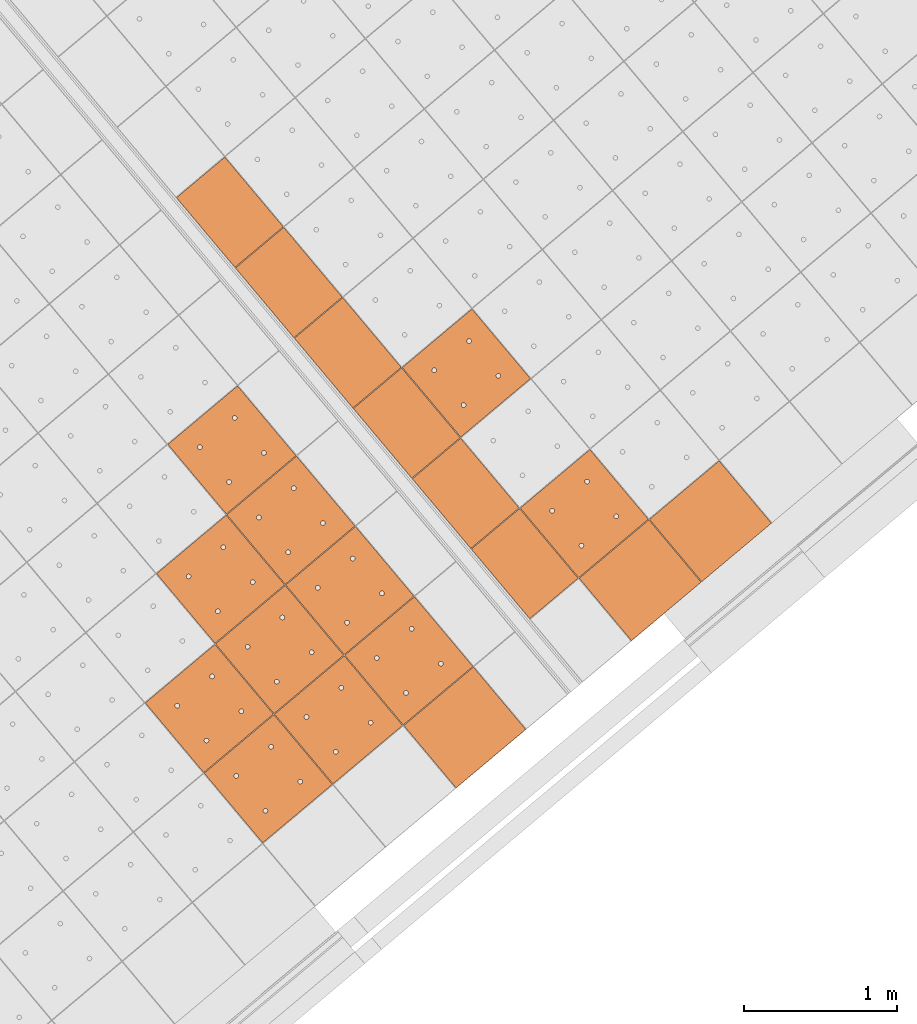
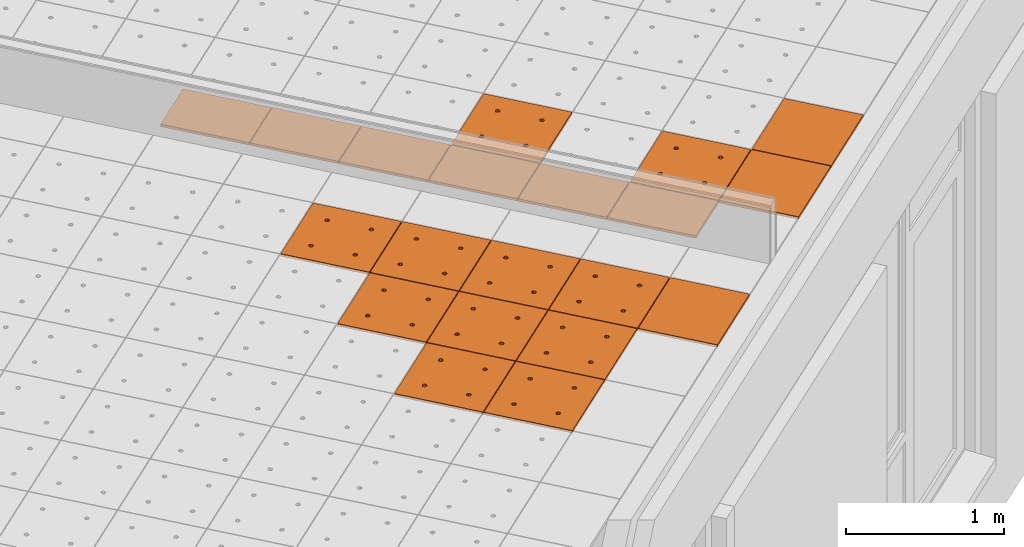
# One storey, part 180 of 338: 20 proxies, 2 elements without a shape of their own.
"""IFC2X3 building model written with IfcOpenShell, lengths in millimetres."""

from ifc_helpers import new_model, entity, si_unit, converted_unit, derived_unit, money_unit, direction, frame, origin_with_axes, place, context, subcontext, project, spatial, faceted_brep, source, transform, mapped, material, type_object, type_shapes, element, aggregate, save


model = new_model("IFC2X3")

# Units and contexts
model_context = context("Model", 3, precision=0.01, world=origin_with_axes(), true_north=direction((0.0, 1.0)))
plan_context = context("Plan", 3, precision=0.01, world=origin_with_axes(), true_north=direction((0.0, 1.0)))
body_context = subcontext(model_context, "Body", "Model", "MODEL_VIEW")
ifc_project = project(units=[si_unit("LENGTHUNIT", "METRE", prefix="MILLI"), si_unit("AREAUNIT", "SQUARE_METRE"), si_unit("VOLUMEUNIT", "CUBIC_METRE"), converted_unit("PLANEANGLEUNIT", "DEGREE", entity("IfcPlaneAngleMeasure", 0.0174532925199), si_unit("PLANEANGLEUNIT", "RADIAN"), dimensions=[0, 0, 0, 0, 0, 0, 0]), money_unit("EUR"), converted_unit("TIMEUNIT", "Year", entity("IfcTimeMeasure", 31556926.0), si_unit("TIMEUNIT", "SECOND"), dimensions=[0, 0, 1, 0, 0, 0, 0]), si_unit("MASSUNIT", "GRAM", prefix="KILO"), si_unit("THERMODYNAMICTEMPERATUREUNIT", "DEGREE_CELSIUS"), si_unit("LUMINOUSINTENSITYUNIT", "LUMEN"), si_unit("ENERGYUNIT", "JOULE", prefix="MEGA"), derived_unit("THERMALCONDUCTANCEUNIT", [(si_unit("POWERUNIT", "WATT"), 1), (si_unit("LENGTHUNIT", "METRE"), -1), (si_unit("THERMODYNAMICTEMPERATUREUNIT", "KELVIN"), -1)]), derived_unit("SPECIFICHEATCAPACITYUNIT", [(si_unit("ENERGYUNIT", "JOULE"), 1), (si_unit("MASSUNIT", "GRAM", prefix="KILO"), -1), (si_unit("THERMODYNAMICTEMPERATUREUNIT", "KELVIN"), -1)]), derived_unit("MASSDENSITYUNIT", [(si_unit("MASSUNIT", "GRAM", prefix="KILO"), 1), (si_unit("VOLUMEUNIT", "CUBIC_METRE"), -1)])], contexts=[model_context, plan_context])

# Site, building, storey
site_placement = place(None, origin_with_axes())
site = spatial("IfcSite", under=ifc_project, at=site_placement, Name="Fortuinstraat Woensdrecht", CompositionType="ELEMENT")
building_placement = place(site_placement, origin_with_axes())
building = spatial("IfcBuilding", under=site, at=building_placement, Name="IKC Fortuna", CompositionType="ELEMENT")
storey_placement = place(building_placement, origin_with_axes())
storey = spatial("IfcBuildingStorey", under=building, at=storey_placement, Name="00 begane grond", CompositionType="ELEMENT", Elevation=0.0)

# Covering, proxies
covering_type = type_object("IfcCoveringType", Name="Curtain Wall Type", PredefinedType="CEILING")
covering_1_placement = place(storey_placement, frame((15150.6418133, -6622.13986243, 4660.0), z_axis=(0.0, 0.0, 1.0), x_axis=(1.0, 0.0, 0.0)))
covering_1 = element("IfcCovering", 1, at=covering_1_placement, inside=storey, type_object=covering_type, Name="45_Plafondafwerking_P01", PredefinedType="CEILING")
ifc_material = material(Name="Gipsplaat")
building_element_proxy_type_1 = type_object("IfcBuildingElementProxyType", Name="Main Panel 600 x 600 x 20", PredefinedType="NOTDEFINED")
shared_shape_1 = source(origin_with_axes(), body_context, "Body", "Brep", [
    faceted_brep([(2.49999999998, 2.49999999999, -10.0), (300.0, 2.49999999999, -10.0), (300.0, 2.49999999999, 10.0), (2.49999999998, 2.49999999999, 10.0), (2.49999999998, 300.0, -10.0), (2.49999999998, 597.5, -10.0), (300.0, 597.5, -10.0), (597.5, 597.5, -10.0), (597.5, 300.0, -10.0), (597.5, 2.49999999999, -10.0), (166.25, 450.06232995, -10.0), (165.79423259, 452.64711538, -10.0), (164.896546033, 455.11348892, -10.0), (163.58421608, 457.38651108, -10.0), (161.897117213, 459.39711721, -10.0), (159.886511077, 461.08421608, -10.0), (157.613488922, 462.39654603, -10.0), (155.147115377, 463.29423259, -10.0), (152.562329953, 463.75, -10.0), (149.937670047, 463.75, -10.0), (147.352884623, 463.29423259, -10.0), (144.886511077, 462.39654603, -10.0), (142.613488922, 461.08421608, -10.0), (140.602882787, 459.39711721, -10.0), (138.91578392, 457.38651108, -10.0), (137.603453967, 455.11348892, -10.0), (136.705767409, 452.64711538, -10.0), (136.25, 450.06232995, -10.0), (136.25, 448.75, -10.0), (136.25, 447.43767005, -10.0), (136.705767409, 444.85288462, -10.0), (137.603453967, 442.38651108, -10.0), (138.91578392, 440.11348892, -10.0), (140.602882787, 438.10288279, -10.0), (142.613488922, 436.41578392, -10.0), (144.886511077, 435.10345397, -10.0), (147.352884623, 434.20576741, -10.0), (149.937670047, 433.75, -10.0), (152.562329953, 433.75, -10.0), (155.147115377, 434.20576741, -10.0), (157.613488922, 435.10345397, -10.0), (159.886511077, 436.41578392, -10.0), (161.897117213, 438.10288279, -10.0), (163.58421608, 440.11348892, -10.0), (164.896546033, 442.38651108, -10.0), (165.79423259, 444.85288462, -10.0), (166.25, 447.43767005, -10.0), (463.75, 450.06232995, -10.0), (463.29423259, 452.64711538, -10.0), (462.396546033, 455.11348892, -10.0), (461.08421608, 457.38651108, -10.0), (459.397117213, 459.39711721, -10.0), (457.386511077, 461.08421608, -10.0), (455.113488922, 462.39654603, -10.0), (452.647115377, 463.29423259, -10.0), (450.062329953, 463.75, -10.0), (447.437670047, 463.75, -10.0), (444.852884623, 463.29423259, -10.0), (442.386511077, 462.39654603, -10.0), (440.113488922, 461.08421608, -10.0), (438.102882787, 459.39711721, -10.0), (436.41578392, 457.38651108, -10.0), (435.103453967, 455.11348892, -10.0), (434.205767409, 452.64711538, -10.0), (433.75, 450.06232995, -10.0), (433.75, 448.75, -10.0), (433.75, 447.43767005, -10.0), (434.205767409, 444.85288462, -10.0), (435.103453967, 442.38651108, -10.0), (436.41578392, 440.11348892, -10.0), (438.102882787, 438.10288279, -10.0), (440.113488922, 436.41578392, -10.0), (442.386511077, 435.10345397, -10.0), (444.852884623, 434.20576741, -10.0), (447.437670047, 433.75, -10.0), (450.062329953, 433.75, -10.0), (452.647115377, 434.20576741, -10.0), (455.113488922, 435.10345397, -10.0), (457.386511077, 436.41578392, -10.0), (459.397117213, 438.10288279, -10.0), (461.08421608, 440.11348892, -10.0), (462.396546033, 442.38651108, -10.0), (463.29423259, 444.85288462, -10.0), (463.75, 447.43767005, -10.0), (463.75, 152.56232995, -10.0), (463.29423259, 155.14711538, -10.0), (462.396546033, 157.61348892, -10.0), (461.08421608, 159.88651108, -10.0), (459.397117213, 161.89711721, -10.0), (457.386511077, 163.58421608, -10.0), (455.113488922, 164.89654603, -10.0), (452.647115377, 165.79423259, -10.0), (450.062329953, 166.25, -10.0), (447.437670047, 166.25, -10.0), (444.852884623, 165.79423259, -10.0), (442.386511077, 164.89654603, -10.0), (440.113488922, 163.58421608, -10.0), (438.102882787, 161.89711721, -10.0), (436.41578392, 159.88651108, -10.0), (435.103453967, 157.61348892, -10.0), (434.205767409, 155.14711538, -10.0), (433.75, 152.56232995, -10.0), (433.75, 151.25, -10.0), (433.75, 149.93767005, -10.0), (434.205767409, 147.35288462, -10.0), (435.103453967, 144.88651108, -10.0), (436.41578392, 142.61348892, -10.0), (438.102882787, 140.60288279, -10.0), (440.113488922, 138.91578392, -10.0), (442.386511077, 137.60345397, -10.0), (444.852884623, 136.70576741, -10.0), (447.437670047, 136.25, -10.0), (450.062329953, 136.25, -10.0), (452.647115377, 136.70576741, -10.0), (455.113488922, 137.60345397, -10.0), (457.386511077, 138.91578392, -10.0), (459.397117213, 140.60288279, -10.0), (461.08421608, 142.61348892, -10.0), (462.396546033, 144.88651108, -10.0), (463.29423259, 147.35288462, -10.0), (463.75, 149.93767005, -10.0), (166.25, 152.56232995, -10.0), (165.79423259, 155.14711538, -10.0), (164.896546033, 157.61348892, -10.0), (163.58421608, 159.88651108, -10.0), (161.897117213, 161.89711721, -10.0), (159.886511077, 163.58421608, -10.0), (157.613488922, 164.89654603, -10.0), (155.147115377, 165.79423259, -10.0), (152.562329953, 166.25, -10.0), (149.937670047, 166.25, -10.0), (147.352884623, 165.79423259, -10.0), (144.886511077, 164.89654603, -10.0), (142.613488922, 163.58421608, -10.0), (140.602882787, 161.89711721, -10.0), (138.91578392, 159.88651108, -10.0), (137.603453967, 157.61348892, -10.0), (136.705767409, 155.14711538, -10.0), (136.25, 152.56232995, -10.0), (136.25, 151.25, -10.0), (136.25, 149.93767005, -10.0), (136.705767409, 147.35288462, -10.0), (137.603453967, 144.88651108, -10.0), (138.91578392, 142.61348892, -10.0), (140.602882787, 140.60288279, -10.0), (142.613488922, 138.91578392, -10.0), (144.886511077, 137.60345397, -10.0), (147.352884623, 136.70576741, -10.0), (149.937670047, 136.25, -10.0), (152.562329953, 136.25, -10.0), (155.147115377, 136.70576741, -10.0), (157.613488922, 137.60345397, -10.0), (159.886511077, 138.91578392, -10.0), (161.897117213, 140.60288279, -10.0), (163.58421608, 142.61348892, -10.0), (164.896546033, 144.88651108, -10.0), (165.79423259, 147.35288462, -10.0), (166.25, 149.93767005, -10.0), (597.5, 2.49999999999, 10.0), (597.5, 300.0, 10.0), (597.5, 597.5, 10.0), (300.0, 597.5, 10.0), (2.49999999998, 597.5, 10.0), (2.49999999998, 300.0, 10.0), (166.25, 450.06232995, 10.0), (166.25, 447.43767005, 10.0), (165.79423259, 444.85288462, 10.0), (164.896546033, 442.38651108, 10.0), (163.58421608, 440.11348892, 10.0), (161.897117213, 438.10288279, 10.0), (159.886511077, 436.41578392, 10.0), (157.613488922, 435.10345397, 10.0), (155.147115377, 434.20576741, 10.0), (152.562329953, 433.75, 10.0), (149.937670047, 433.75, 10.0), (147.352884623, 434.20576741, 10.0), (144.886511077, 435.10345397, 10.0), (142.613488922, 436.41578392, 10.0), (140.602882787, 438.10288279, 10.0), (138.91578392, 440.11348892, 10.0), (137.603453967, 442.38651108, 10.0), (136.705767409, 444.85288462, 10.0), (136.25, 447.43767005, 10.0), (136.25, 448.75, 10.0), (136.25, 450.06232995, 10.0), (136.705767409, 452.64711538, 10.0), (137.603453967, 455.11348892, 10.0), (138.91578392, 457.38651108, 10.0), (140.602882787, 459.39711721, 10.0), (142.613488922, 461.08421608, 10.0), (144.886511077, 462.39654603, 10.0), (147.352884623, 463.29423259, 10.0), (149.937670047, 463.75, 10.0), (152.562329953, 463.75, 10.0), (155.147115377, 463.29423259, 10.0), (157.613488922, 462.39654603, 10.0), (159.886511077, 461.08421608, 10.0), (161.897117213, 459.39711721, 10.0), (163.58421608, 457.38651108, 10.0), (164.896546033, 455.11348892, 10.0), (165.79423259, 452.64711538, 10.0), (463.75, 450.06232995, 10.0), (463.75, 447.43767005, 10.0), (463.29423259, 444.85288462, 10.0), (462.396546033, 442.38651108, 10.0), (461.08421608, 440.11348892, 10.0), (459.397117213, 438.10288279, 10.0), (457.386511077, 436.41578392, 10.0), (455.113488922, 435.10345397, 10.0), (452.647115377, 434.20576741, 10.0), (450.062329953, 433.75, 10.0), (447.437670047, 433.75, 10.0), (444.852884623, 434.20576741, 10.0), (442.386511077, 435.10345397, 10.0), (440.113488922, 436.41578392, 10.0), (438.102882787, 438.10288279, 10.0), (436.41578392, 440.11348892, 10.0), (435.103453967, 442.38651108, 10.0), (434.205767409, 444.85288462, 10.0), (433.75, 447.43767005, 10.0), (433.75, 448.75, 10.0), (433.75, 450.06232995, 10.0), (434.205767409, 452.64711538, 10.0), (435.103453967, 455.11348892, 10.0), (436.41578392, 457.38651108, 10.0), (438.102882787, 459.39711721, 10.0), (440.113488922, 461.08421608, 10.0), (442.386511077, 462.39654603, 10.0), (444.852884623, 463.29423259, 10.0), (447.437670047, 463.75, 10.0), (450.062329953, 463.75, 10.0), (452.647115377, 463.29423259, 10.0), (455.113488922, 462.39654603, 10.0), (457.386511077, 461.08421608, 10.0), (459.397117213, 459.39711721, 10.0), (461.08421608, 457.38651108, 10.0), (462.396546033, 455.11348892, 10.0), (463.29423259, 452.64711538, 10.0), (463.75, 152.56232995, 10.0), (463.75, 149.93767005, 10.0), (463.29423259, 147.35288462, 10.0), (462.396546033, 144.88651108, 10.0), (461.08421608, 142.61348892, 10.0), (459.397117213, 140.60288279, 10.0), (457.386511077, 138.91578392, 10.0), (455.113488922, 137.60345397, 10.0), (452.647115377, 136.70576741, 10.0), (450.062329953, 136.25, 10.0), (447.437670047, 136.25, 10.0), (444.852884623, 136.70576741, 10.0), (442.386511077, 137.60345397, 10.0), (440.113488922, 138.91578392, 10.0), (438.102882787, 140.60288279, 10.0), (436.41578392, 142.61348892, 10.0), (435.103453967, 144.88651108, 10.0), (434.205767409, 147.35288462, 10.0), (433.75, 149.93767005, 10.0), (433.75, 151.25, 10.0), (433.75, 152.56232995, 10.0), (434.205767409, 155.14711538, 10.0), (435.103453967, 157.61348892, 10.0), (436.41578392, 159.88651108, 10.0), (438.102882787, 161.89711721, 10.0), (440.113488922, 163.58421608, 10.0), (442.386511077, 164.89654603, 10.0), (444.852884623, 165.79423259, 10.0), (447.437670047, 166.25, 10.0), (450.062329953, 166.25, 10.0), (452.647115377, 165.79423259, 10.0), (455.113488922, 164.89654603, 10.0), (457.386511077, 163.58421608, 10.0), (459.397117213, 161.89711721, 10.0), (461.08421608, 159.88651108, 10.0), (462.396546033, 157.61348892, 10.0), (463.29423259, 155.14711538, 10.0), (166.25, 152.56232995, 10.0), (166.25, 149.93767005, 10.0), (165.79423259, 147.35288462, 10.0), (164.896546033, 144.88651108, 10.0), (163.58421608, 142.61348892, 10.0), (161.897117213, 140.60288279, 10.0), (159.886511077, 138.91578392, 10.0), (157.613488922, 137.60345397, 10.0), (155.147115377, 136.70576741, 10.0), (152.562329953, 136.25, 10.0), (149.937670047, 136.25, 10.0), (147.352884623, 136.70576741, 10.0), (144.886511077, 137.60345397, 10.0), (142.613488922, 138.91578392, 10.0), (140.602882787, 140.60288279, 10.0), (138.91578392, 142.61348892, 10.0), (137.603453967, 144.88651108, 10.0), (136.705767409, 147.35288462, 10.0), (136.25, 149.93767005, 10.0), (136.25, 151.25, 10.0), (136.25, 152.56232995, 10.0), (136.705767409, 155.14711538, 10.0), (137.603453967, 157.61348892, 10.0), (138.91578392, 159.88651108, 10.0), (140.602882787, 161.89711721, 10.0), (142.613488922, 163.58421608, 10.0), (144.886511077, 164.89654603, 10.0), (147.352884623, 165.79423259, 10.0), (149.937670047, 166.25, 10.0), (152.562329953, 166.25, 10.0), (155.147115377, 165.79423259, 10.0), (157.613488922, 164.89654603, 10.0), (159.886511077, 163.58421608, 10.0), (161.897117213, 161.89711721, 10.0), (163.58421608, 159.88651108, 10.0), (164.896546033, 157.61348892, 10.0), (165.79423259, 155.14711538, 10.0)], [[[0, 1, 2, 3]], [[0, 4, 5, 6, 7, 8, 9, 1], [10, 11, 12, 13, 14, 15, 16, 17, 18, 19, 20, 21, 22, 23, 24, 25, 26, 27, 28, 29, 30, 31, 32, 33, 34, 35, 36, 37, 38, 39, 40, 41, 42, 43, 44, 45, 46], [47, 48, 49, 50, 51, 52, 53, 54, 55, 56, 57, 58, 59, 60, 61, 62, 63, 64, 65, 66, 67, 68, 69, 70, 71, 72, 73, 74, 75, 76, 77, 78, 79, 80, 81, 82, 83], [84, 85, 86, 87, 88, 89, 90, 91, 92, 93, 94, 95, 96, 97, 98, 99, 100, 101, 102, 103, 104, 105, 106, 107, 108, 109, 110, 111, 112, 113, 114, 115, 116, 117, 118, 119, 120], [121, 122, 123, 124, 125, 126, 127, 128, 129, 130, 131, 132, 133, 134, 135, 136, 137, 138, 139, 140, 141, 142, 143, 144, 145, 146, 147, 148, 149, 150, 151, 152, 153, 154, 155, 156, 157]], [[1, 9, 158, 2]], [[3, 2, 158, 159, 160, 161, 162, 163], [164, 165, 166, 167, 168, 169, 170, 171, 172, 173, 174, 175, 176, 177, 178, 179, 180, 181, 182, 183, 184, 185, 186, 187, 188, 189, 190, 191, 192, 193, 194, 195, 196, 197, 198, 199, 200], [201, 202, 203, 204, 205, 206, 207, 208, 209, 210, 211, 212, 213, 214, 215, 216, 217, 218, 219, 220, 221, 222, 223, 224, 225, 226, 227, 228, 229, 230, 231, 232, 233, 234, 235, 236, 237], [238, 239, 240, 241, 242, 243, 244, 245, 246, 247, 248, 249, 250, 251, 252, 253, 254, 255, 256, 257, 258, 259, 260, 261, 262, 263, 264, 265, 266, 267, 268, 269, 270, 271, 272, 273, 274], [275, 276, 277, 278, 279, 280, 281, 282, 283, 284, 285, 286, 287, 288, 289, 290, 291, 292, 293, 294, 295, 296, 297, 298, 299, 300, 301, 302, 303, 304, 305, 306, 307, 308, 309, 310, 311]], [[4, 0, 3, 163]], [[5, 4, 163, 162]], [[6, 5, 162, 161]], [[7, 6, 161, 160]], [[8, 7, 160, 159]], [[9, 8, 159, 158]], [[11, 10, 164, 200]], [[12, 11, 200, 199]], [[13, 12, 199, 198]], [[14, 13, 198, 197]], [[15, 14, 197, 196]], [[16, 15, 196, 195]], [[17, 16, 195, 194]], [[18, 17, 194, 193]], [[19, 18, 193, 192]], [[20, 19, 192, 191]], [[21, 20, 191, 190]], [[22, 21, 190, 189]], [[23, 22, 189, 188]], [[24, 23, 188, 187]], [[25, 24, 187, 186]], [[26, 25, 186, 185]], [[27, 26, 185, 184]], [[28, 27, 184, 183]], [[29, 28, 183, 182]], [[30, 29, 182, 181]], [[31, 30, 181, 180]], [[32, 31, 180, 179]], [[33, 32, 179, 178]], [[34, 33, 178, 177]], [[35, 34, 177, 176]], [[36, 35, 176, 175]], [[37, 36, 175, 174]], [[38, 37, 174, 173]], [[39, 38, 173, 172]], [[40, 39, 172, 171]], [[41, 40, 171, 170]], [[42, 41, 170, 169]], [[43, 42, 169, 168]], [[44, 43, 168, 167]], [[45, 44, 167, 166]], [[46, 45, 166, 165]], [[10, 46, 165, 164]], [[48, 47, 201, 237]], [[49, 48, 237, 236]], [[50, 49, 236, 235]], [[51, 50, 235, 234]], [[52, 51, 234, 233]], [[53, 52, 233, 232]], [[54, 53, 232, 231]], [[55, 54, 231, 230]], [[56, 55, 230, 229]], [[57, 56, 229, 228]], [[58, 57, 228, 227]], [[59, 58, 227, 226]], [[60, 59, 226, 225]], [[61, 60, 225, 224]], [[62, 61, 224, 223]], [[63, 62, 223, 222]], [[64, 63, 222, 221]], [[65, 64, 221, 220]], [[66, 65, 220, 219]], [[67, 66, 219, 218]], [[68, 67, 218, 217]], [[69, 68, 217, 216]], [[70, 69, 216, 215]], [[71, 70, 215, 214]], [[72, 71, 214, 213]], [[73, 72, 213, 212]], [[74, 73, 212, 211]], [[75, 74, 211, 210]], [[76, 75, 210, 209]], [[77, 76, 209, 208]], [[78, 77, 208, 207]], [[79, 78, 207, 206]], [[80, 79, 206, 205]], [[81, 80, 205, 204]], [[82, 81, 204, 203]], [[83, 82, 203, 202]], [[47, 83, 202, 201]], [[85, 84, 238, 274]], [[86, 85, 274, 273]], [[87, 86, 273, 272]], [[88, 87, 272, 271]], [[89, 88, 271, 270]], [[90, 89, 270, 269]], [[91, 90, 269, 268]], [[92, 91, 268, 267]], [[93, 92, 267, 266]], [[94, 93, 266, 265]], [[95, 94, 265, 264]], [[96, 95, 264, 263]], [[97, 96, 263, 262]], [[98, 97, 262, 261]], [[99, 98, 261, 260]], [[100, 99, 260, 259]], [[101, 100, 259, 258]], [[102, 101, 258, 257]], [[103, 102, 257, 256]], [[104, 103, 256, 255]], [[105, 104, 255, 254]], [[106, 105, 254, 253]], [[107, 106, 253, 252]], [[108, 107, 252, 251]], [[109, 108, 251, 250]], [[110, 109, 250, 249]], [[111, 110, 249, 248]], [[112, 111, 248, 247]], [[113, 112, 247, 246]], [[114, 113, 246, 245]], [[115, 114, 245, 244]], [[116, 115, 244, 243]], [[117, 116, 243, 242]], [[118, 117, 242, 241]], [[119, 118, 241, 240]], [[120, 119, 240, 239]], [[84, 120, 239, 238]], [[122, 121, 275, 311]], [[123, 122, 311, 310]], [[124, 123, 310, 309]], [[125, 124, 309, 308]], [[126, 125, 308, 307]], [[127, 126, 307, 306]], [[128, 127, 306, 305]], [[129, 128, 305, 304]], [[130, 129, 304, 303]], [[131, 130, 303, 302]], [[132, 131, 302, 301]], [[133, 132, 301, 300]], [[134, 133, 300, 299]], [[135, 134, 299, 298]], [[136, 135, 298, 297]], [[137, 136, 297, 296]], [[138, 137, 296, 295]], [[139, 138, 295, 294]], [[140, 139, 294, 293]], [[141, 140, 293, 292]], [[142, 141, 292, 291]], [[143, 142, 291, 290]], [[144, 143, 290, 289]], [[145, 144, 289, 288]], [[146, 145, 288, 287]], [[147, 146, 287, 286]], [[148, 147, 286, 285]], [[149, 148, 285, 284]], [[150, 149, 284, 283]], [[151, 150, 283, 282]], [[152, 151, 282, 281]], [[153, 152, 281, 280]], [[154, 153, 280, 279]], [[155, 154, 279, 278]], [[156, 155, 278, 277]], [[157, 156, 277, 276]], [[121, 157, 276, 275]]]),
])
type_shapes(building_element_proxy_type_1, [shared_shape_1])
proxy_1_placement = place(covering_1_placement, frame((2354.68677846, -3591.74432218, 0.0), z_axis=(0.0, 0.0, 1.0), x_axis=(1.0, 0.0, 0.0)))
proxy_1 = element("IfcBuildingElementProxy", 2, at=proxy_1_placement, type_object=building_element_proxy_type_1, material=ifc_material, Name="__600x694 Rockfon Krios", context=body_context, shape_type="MappedRepresentation", body=[
    mapped(shared_shape_1, transform((36.9769427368, 422.649625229, 0.0), x_axis=(-0.766044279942, -0.642787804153, 0.0), y_axis=(0.642787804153, -0.766044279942, 0.0), z_axis=(0.0, 0.0, 1.0))),
])
proxy_2_placement = place(covering_1_placement, frame((2740.35946095, -4051.37089015, 0.0), z_axis=(0.0, 0.0, 1.0), x_axis=(1.0, 0.0, 0.0)))
proxy_2 = element("IfcBuildingElementProxy", 3, at=proxy_2_placement, type_object=building_element_proxy_type_1, material=ifc_material, Name="__600x695 Rockfon Krios", context=body_context, shape_type="MappedRepresentation", body=[
    mapped(shared_shape_1, transform((36.9769427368, 422.649625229, 0.0), x_axis=(-0.766044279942, -0.642787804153, 0.0), y_axis=(0.642787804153, -0.766044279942, 0.0), z_axis=(0.0, 0.0, 1.0))),
])
proxy_3_placement = place(covering_1_placement, frame((3126.03214345, -4510.99745811, 0.0), z_axis=(0.0, 0.0, 1.0), x_axis=(1.0, 0.0, 0.0)))
proxy_3 = element("IfcBuildingElementProxy", 4, at=proxy_3_placement, type_object=building_element_proxy_type_1, material=ifc_material, Name="__600x696 Rockfon Krios", context=body_context, shape_type="MappedRepresentation", body=[
    mapped(shared_shape_1, transform((36.9769427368, 422.649625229, 0.0), x_axis=(-0.766044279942, -0.642787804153, 0.0), y_axis=(0.642787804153, -0.766044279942, 0.0), z_axis=(0.0, 0.0, 1.0))),
])
proxy_4_placement = place(covering_1_placement, frame((3511.70482594, -4970.62402608, 0.0), z_axis=(0.0, 0.0, 1.0), x_axis=(1.0, 0.0, 0.0)))
proxy_4 = element("IfcBuildingElementProxy", 5, at=proxy_4_placement, type_object=building_element_proxy_type_1, material=ifc_material, Name="__600x697 Rockfon Krios", context=body_context, shape_type="MappedRepresentation", body=[
    mapped(shared_shape_1, transform((36.9769427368, 422.649625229, 0.0), x_axis=(-0.766044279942, -0.642787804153, 0.0), y_axis=(0.642787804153, -0.766044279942, 0.0), z_axis=(0.0, 0.0, 1.0))),
])
proxy_5_placement = place(covering_1_placement, frame((2280.73289299, -4437.04357264, 0.0), z_axis=(0.0, 0.0, 1.0), x_axis=(1.0, 0.0, 0.0)))
proxy_5 = element("IfcBuildingElementProxy", 6, at=proxy_5_placement, type_object=building_element_proxy_type_1, material=ifc_material, Name="__600x704 Rockfon Krios", context=body_context, shape_type="MappedRepresentation", body=[
    mapped(shared_shape_1, transform((36.9769427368, 422.649625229, 0.0), x_axis=(-0.766044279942, -0.642787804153, 0.0), y_axis=(0.642787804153, -0.766044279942, 0.0), z_axis=(0.0, 0.0, 1.0))),
])
proxy_6_placement = place(covering_1_placement, frame((2666.40557548, -4896.67014061, 0.0), z_axis=(0.0, 0.0, 1.0), x_axis=(1.0, 0.0, 0.0)))
proxy_6 = element("IfcBuildingElementProxy", 7, at=proxy_6_placement, type_object=building_element_proxy_type_1, material=ifc_material, Name="__600x705 Rockfon Krios", context=body_context, shape_type="MappedRepresentation", body=[
    mapped(shared_shape_1, transform((36.9769427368, 422.649625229, 0.0), x_axis=(-0.766044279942, -0.642787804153, 0.0), y_axis=(0.642787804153, -0.766044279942, 0.0), z_axis=(0.0, 0.0, 1.0))),
])
proxy_7_placement = place(covering_1_placement, frame((3052.07825797, -5356.29670857, 0.0), z_axis=(0.0, 0.0, 1.0), x_axis=(1.0, 0.0, 0.0)))
proxy_7 = element("IfcBuildingElementProxy", 8, at=proxy_7_placement, type_object=building_element_proxy_type_1, material=ifc_material, Name="__600x706 Rockfon Krios", context=body_context, shape_type="MappedRepresentation", body=[
    mapped(shared_shape_1, transform((36.9769427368, 422.649625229, 0.0), x_axis=(-0.766044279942, -0.642787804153, 0.0), y_axis=(0.642787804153, -0.766044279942, 0.0), z_axis=(0.0, 0.0, 1.0))),
])
proxy_8_placement = place(covering_1_placement, frame((2206.77900752, -5282.3428231, 0.0), z_axis=(0.0, 0.0, 1.0), x_axis=(1.0, 0.0, 0.0)))
proxy_8 = element("IfcBuildingElementProxy", 9, at=proxy_8_placement, type_object=building_element_proxy_type_1, material=ifc_material, Name="__600x714 Rockfon Krios", context=body_context, shape_type="MappedRepresentation", body=[
    mapped(shared_shape_1, transform((36.9769427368, 422.649625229, 0.0), x_axis=(-0.766044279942, -0.642787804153, 0.0), y_axis=(0.642787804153, -0.766044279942, 0.0), z_axis=(0.0, 0.0, 1.0))),
])
proxy_9_placement = place(covering_1_placement, frame((2592.45169001, -5741.96939106, 0.0), z_axis=(0.0, 0.0, 1.0), x_axis=(1.0, 0.0, 0.0)))
proxy_9 = element("IfcBuildingElementProxy", 10, at=proxy_9_placement, type_object=building_element_proxy_type_1, material=ifc_material, Name="__600x715 Rockfon Krios", context=body_context, shape_type="MappedRepresentation", body=[
    mapped(shared_shape_1, transform((36.9769427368, 422.649625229, 0.0), x_axis=(-0.766044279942, -0.642787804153, 0.0), y_axis=(0.642787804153, -0.766044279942, 0.0), z_axis=(0.0, 0.0, 1.0))),
])

covering_2_placement = place(storey_placement, frame((19785.7448517, -11392.5753808, 4660.0), z_axis=(0.0, 0.0, 1.0), x_axis=(1.0, 0.0, 0.0)))
covering_2 = element("IfcCovering", 11, at=covering_2_placement, inside=storey, type_object=covering_type, Name="45_Plafondafwerking_P01", PredefinedType="CEILING")
proxy_10_placement = place(covering_2_placement, frame((24.138083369, 762.706769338, 2.20268248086e-10), z_axis=(0.0, 0.0, 1.0), x_axis=(1.0, 0.0, 0.0)))
proxy_10 = element("IfcBuildingElementProxy", 12, at=proxy_10_placement, type_object=building_element_proxy_type_1, material=ifc_material, Name="__600x664 Rockfon Krios", context=body_context, shape_type="MappedRepresentation", body=[
    mapped(shared_shape_1, transform((36.9769427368, 422.649625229, 0.0), x_axis=(-0.766044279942, -0.642787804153, 0.0), y_axis=(0.642787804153, -0.766044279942, 0.0), z_axis=(0.0, 0.0, 1.0))),
])
proxy_11_placement = place(covering_2_placement, frame((-747.207281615, 1681.95990527, 2.20268248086e-10), z_axis=(0.0, 0.0, 1.0), x_axis=(1.0, 0.0, 0.0)))
proxy_11 = element("IfcBuildingElementProxy", 13, at=proxy_11_placement, type_object=building_element_proxy_type_1, material=ifc_material, Name="__600x676 Rockfon Krios", context=body_context, shape_type="MappedRepresentation", body=[
    mapped(shared_shape_1, transform((36.9769427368, 422.649625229, 0.0), x_axis=(-0.766044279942, -0.642787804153, 0.0), y_axis=(0.642787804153, -0.766044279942, 0.0), z_axis=(0.0, 0.0, 1.0))),
])

# Proxy
building_element_proxy_type_2 = type_object("IfcBuildingElementProxyType", Name="600 x 538 x 20", PredefinedType="NOTDEFINED")
shared_shape_2 = source(origin_with_axes(), body_context, "Body", "Brep", [
    faceted_brep([(2.49999356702, 2.5000047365, -10.0), (597.499998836, 2.49999810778, -10.0), (597.499998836, 2.49999810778, 10.0), (2.49999356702, 2.5000047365, 10.0), (2.49999991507, 535.002599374, -10.0), (597.500005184, 535.002592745, -10.0), (597.500005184, 535.002592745, 10.0), (2.49999991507, 535.002599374, 10.0)], [[[0, 1, 2, 3]], [[0, 4, 5, 1]], [[1, 5, 6, 2]], [[3, 2, 6, 7]], [[4, 0, 3, 7]], [[5, 4, 7, 6]]]),
])
type_shapes(building_element_proxy_type_2, [shared_shape_2])
proxy_12_placement = place(covering_1_placement, frame((3877.29122487, -5406.31270579, 0.0), z_axis=(0.0, 0.0, 1.0), x_axis=(1.0, 0.0, 0.0)))
proxy_12 = element("IfcBuildingElementProxy", 14, at=proxy_12_placement, type_object=building_element_proxy_type_2, material=ifc_material, Name="__600x662 Rockfon Krios", context=body_context, shape_type="MappedRepresentation", body=[
    mapped(shared_shape_2, transform((57.0632262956, 398.711736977, 0.0), x_axis=(-0.766044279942, -0.642787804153, 0.0), y_axis=(0.642787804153, -0.766044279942, 0.0), z_axis=(0.0, 0.0, 1.0))),
])

aggregate(covering_1, [proxy_12, proxy_1, proxy_2, proxy_3, proxy_4, proxy_5, proxy_6, proxy_7, proxy_8, proxy_9])

proxy_13_placement = place(covering_2_placement, frame((849.351179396, 712.690618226, 1.99840144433e-10), z_axis=(0.0, 0.0, 1.0), x_axis=(1.0, 0.0, 0.0)))
proxy_13 = element("IfcBuildingElementProxy", 15, at=proxy_13_placement, type_object=building_element_proxy_type_2, material=ifc_material, Name="__600x661 Rockfon Krios", context=body_context, shape_type="MappedRepresentation", body=[
    mapped(shared_shape_2, transform((57.0630971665, 398.711890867, 0.0), x_axis=(-0.766044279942, -0.642787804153, 0.0), y_axis=(0.642787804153, -0.766044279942, 0.0), z_axis=(0.0, 0.0, 1.0))),
])

proxy_14_placement = place(covering_2_placement, frame((389.724611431, 327.017935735, 2.20268248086e-10), z_axis=(0.0, 0.0, 1.0), x_axis=(1.0, 0.0, 0.0)))
proxy_14 = element("IfcBuildingElementProxy", 16, at=proxy_14_placement, type_object=building_element_proxy_type_2, material=ifc_material, Name="__600x688 Rockfon Krios", context=body_context, shape_type="MappedRepresentation", body=[
    mapped(shared_shape_2, transform((57.0630971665, 398.711890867, 0.0), x_axis=(-0.766044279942, -0.642787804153, 0.0), y_axis=(0.642787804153, -0.766044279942, 0.0), z_axis=(0.0, 0.0, 1.0))),
])

building_element_proxy_type_3 = type_object("IfcBuildingElementProxyType", Name="417 x 600 x 20", PredefinedType="NOTDEFINED")
shared_shape_3 = source(origin_with_axes(), body_context, "Body", "Brep", [
    faceted_brep([(2.49998784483, 2.49998600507, -10.0), (414.998892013, 2.49999492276, -10.0), (414.998892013, 2.49999492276, 10.0), (2.49998784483, 2.49998600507, 10.0), (2.49999552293, 597.500005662, -10.0), (414.998894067, 597.499991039, -10.0), (414.998894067, 597.499991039, 10.0), (2.49999552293, 597.500005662, 10.0)], [[[0, 1, 2, 3]], [[0, 4, 5, 1]], [[1, 5, 6, 2]], [[3, 2, 6, 7]], [[4, 0, 3, 7]], [[5, 4, 7, 6]]]),
])
type_shapes(building_element_proxy_type_3, [shared_shape_3])
proxy_15_placement = place(covering_2_placement, frame((-1908.27725282, 2274.19509926, 2.3714363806e-10), z_axis=(0.0, 0.0, 1.0), x_axis=(1.0, 0.0, 0.0)))
proxy_15 = element("IfcBuildingElementProxy", 17, at=proxy_15_placement, type_object=building_element_proxy_type_3, material=ifc_material, Name="__600x621 Rockfon Krios", context=body_context, shape_type="MappedRepresentation", body=[
    mapped(shared_shape_3, transform((-32.9250190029, 363.994884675, 0.0), x_axis=(-0.766044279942, -0.642787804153, 0.0), y_axis=(0.642787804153, -0.766044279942, 0.0), z_axis=(0.0, 0.0, 1.0))),
])

proxy_16_placement = place(covering_2_placement, frame((-365.586522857, 435.6888274, 2.3714363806e-10), z_axis=(0.0, 0.0, 1.0), x_axis=(1.0, 0.0, 0.0)))
proxy_16 = element("IfcBuildingElementProxy", 18, at=proxy_16_placement, type_object=building_element_proxy_type_3, material=ifc_material, Name="__600x635 Rockfon Krios", context=body_context, shape_type="MappedRepresentation", body=[
    mapped(shared_shape_3, transform((-32.9250190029, 363.994884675, 0.0), x_axis=(-0.766044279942, -0.642787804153, 0.0), y_axis=(0.642787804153, -0.766044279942, 0.0), z_axis=(0.0, 0.0, 1.0))),
])

proxy_17_placement = place(covering_2_placement, frame((-2293.94993532, 2733.82166723, 2.3714363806e-10), z_axis=(0.0, 0.0, 1.0), x_axis=(1.0, 0.0, 0.0)))
proxy_17 = element("IfcBuildingElementProxy", 19, at=proxy_17_placement, type_object=building_element_proxy_type_3, material=ifc_material, Name="__600x652 Rockfon Krios", context=body_context, shape_type="MappedRepresentation", body=[
    mapped(shared_shape_3, transform((-32.9250190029, 363.994884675, 0.0), x_axis=(-0.766044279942, -0.642787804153, 0.0), y_axis=(0.642787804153, -0.766044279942, 0.0), z_axis=(0.0, 0.0, 1.0))),
])

proxy_18_placement = place(covering_2_placement, frame((-751.259205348, 895.315395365, 2.3714363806e-10), z_axis=(0.0, 0.0, 1.0), x_axis=(1.0, 0.0, 0.0)))
proxy_18 = element("IfcBuildingElementProxy", 20, at=proxy_18_placement, type_object=building_element_proxy_type_3, material=ifc_material, Name="__600x670 Rockfon Krios", context=body_context, shape_type="MappedRepresentation", body=[
    mapped(shared_shape_3, transform((-32.9250190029, 363.994884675, 0.0), x_axis=(-0.766044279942, -0.642787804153, 0.0), y_axis=(0.642787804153, -0.766044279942, 0.0), z_axis=(0.0, 0.0, 1.0))),
])

proxy_19_placement = place(covering_2_placement, frame((-1522.60457033, 1814.5685313, 2.3714363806e-10), z_axis=(0.0, 0.0, 1.0), x_axis=(1.0, 0.0, 0.0)))
proxy_19 = element("IfcBuildingElementProxy", 21, at=proxy_19_placement, type_object=building_element_proxy_type_3, material=ifc_material, Name="__600x671 Rockfon Krios", context=body_context, shape_type="MappedRepresentation", body=[
    mapped(shared_shape_3, transform((-32.9250190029, 363.994884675, 0.0), x_axis=(-0.766044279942, -0.642787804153, 0.0), y_axis=(0.642787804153, -0.766044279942, 0.0), z_axis=(0.0, 0.0, 1.0))),
])

proxy_20_placement = place(covering_2_placement, frame((-1136.93188784, 1354.94196333, 2.3714363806e-10), z_axis=(0.0, 0.0, 1.0), x_axis=(1.0, 0.0, 0.0)))
proxy_20 = element("IfcBuildingElementProxy", 22, at=proxy_20_placement, type_object=building_element_proxy_type_3, material=ifc_material, Name="__600x717 Rockfon Krios", context=body_context, shape_type="MappedRepresentation", body=[
    mapped(shared_shape_3, transform((-32.9250190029, 363.994884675, 0.0), x_axis=(-0.766044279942, -0.642787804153, 0.0), y_axis=(0.642787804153, -0.766044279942, 0.0), z_axis=(0.0, 0.0, 1.0))),
])

aggregate(covering_2, [proxy_15, proxy_16, proxy_17, proxy_13, proxy_10, proxy_18, proxy_19, proxy_11, proxy_14, proxy_20])

save(model, "model.ifc")
